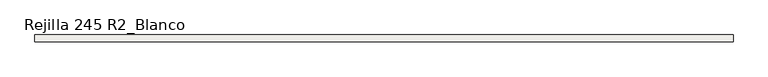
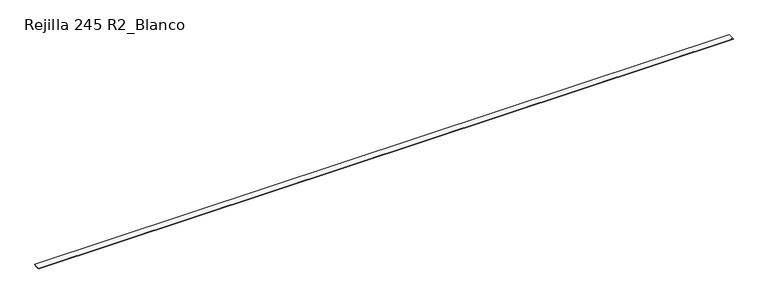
"""IFC4 building model written with IfcOpenShell, lengths in millimetres: slab geometry, ROSA GRES_245 R2 : Rejilla 245 R2_Blanco."""

from ifc_helpers import new_model, si_unit, frame, origin, place, context, project, spatial, polyline, outline, extrude, source, transform, mapped, element, save


def rejilla_245_r2_blanco_6a6c3202(model_context):
    return source(origin(), model_context, "Body", "SweptSolid", [
        extrude(outline(polyline([(369.5908797, 206.3460936), (369.5908797, 228.3460936), (614.5908797, 228.3460936), (614.5908797, 206.3460936), (572.3142119, 206.3460936), (561.3142119, 195.3460936), (422.8675475, 195.3460936), (411.8675475, 206.3460936), (369.5908797, 206.3460936)])), frame((0.0, 0.0, 0.0), z_axis=(1.0, 0.0, 0.0), x_axis=(0.0, 1.0, 0.0)), (0.0, 0.0, 1.0), 25331.1909005),
    ])


if __name__ == "__main__":
    model = new_model("IFC4")
    model_context = context("Model", 3, world=origin())
    ifc_project = project(units=[si_unit("LENGTHUNIT", "METRE", prefix="MILLI")], contexts=[model_context])
    site = spatial("IfcSite", under=ifc_project)
    building = spatial("IfcBuilding", under=site)
    placement = place(None, origin())
    rejilla_245_r2_blanco_shape = rejilla_245_r2_blanco_6a6c3202(model_context)
    element("IfcSlab", 1, ObjectType="ROSA GRES_245 R2 : Rejilla 245 R2_Blanco", at=placement, inside=building, context=model_context, shape_type="MappedRepresentation", body=[
        mapped(rejilla_245_r2_blanco_shape, transform((0.0, 0.0, 0.0), x_axis=(1.0, 0.0, 0.0), y_axis=(0.0, 1.0, 0.0), z_axis=(0.0, 0.0, 1.0))),
    ])
    save(model, "model.ifc")
